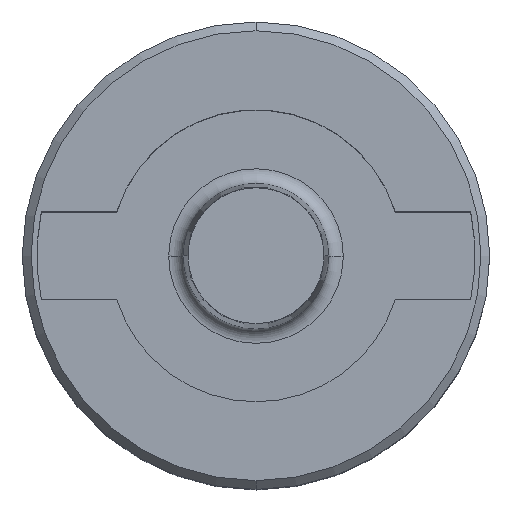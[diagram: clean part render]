
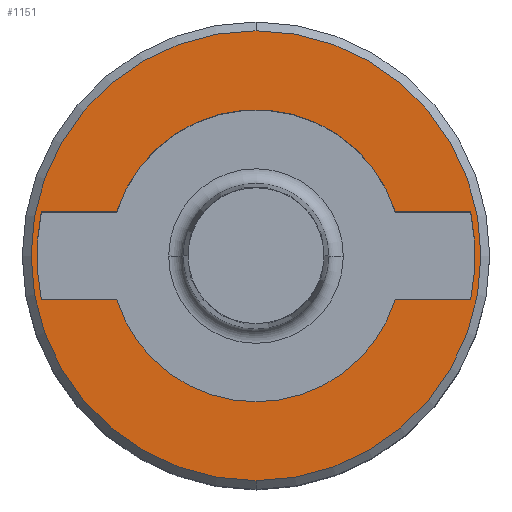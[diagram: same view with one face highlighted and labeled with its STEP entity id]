
A CAD part, top view. The second image highlights one B-rep face of the part: STEP entity #1151.
In plain terms, the highlighted planar face has unit normal (0, 0, 1) as drawn and (0, -1, 0) by its records, which use the part's own axes.
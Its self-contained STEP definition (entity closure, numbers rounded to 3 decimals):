
#2 = DIRECTION ( 'NONE',  ( 0., 1., 0. ) ) ;
#3 = ORIENTED_EDGE ( 'NONE', *, *, #878, .F. ) ;
#7 = DIRECTION ( 'NONE',  ( 0., 0., 1. ) ) ;
#30 = DIRECTION ( 'NONE',  ( 0., 0., -1. ) ) ;
#40 = EDGE_CURVE ( 'NONE', #260, #270, #499, .T. ) ;
#49 = ORIENTED_EDGE ( 'NONE', *, *, #906, .F. ) ;
#54 = CARTESIAN_POINT ( 'NONE',  ( 0., 0., 1.5 ) ) ;
#57 = DIRECTION ( 'NONE',  ( 1., 0., 0. ) ) ;
#95 = VECTOR ( 'NONE', #1004, 1000. ) ;
#108 = CARTESIAN_POINT ( 'NONE',  ( 0., 0., 0. ) ) ;
#109 = EDGE_LOOP ( 'NONE', ( #1321, #662, #573, #49, #682, #3, #475, #1499, #440 ) ) ;
#128 = FACE_BOUND ( 'NONE', #109, .T. ) ;
#132 = CARTESIAN_POINT ( 'NONE',  ( -4.77, 0., -1.5 ) ) ;
#134 = CARTESIAN_POINT ( 'NONE',  ( 4.77, 0., -1.5 ) ) ;
#142 = CIRCLE ( 'NONE', #960, 7.7 ) ;
#145 = CIRCLE ( 'NONE', #531, 5. ) ;
#147 = CARTESIAN_POINT ( 'NONE',  ( -4.77, 0., 1.5 ) ) ;
#149 = AXIS2_PLACEMENT_3D ( 'NONE', #398, #860, #632 ) ;
#153 = CARTESIAN_POINT ( 'NONE',  ( 0., 0., 0. ) ) ;
#174 = VERTEX_POINT ( 'NONE', #222 ) ;
#222 = CARTESIAN_POINT ( 'NONE',  ( 4.77, 0., 1.5 ) ) ;
#233 = PLANE ( 'NONE',  #791 ) ;
#260 = VERTEX_POINT ( 'NONE', #514 ) ;
#270 = VERTEX_POINT ( 'NONE', #628 ) ;
#281 = CARTESIAN_POINT ( 'NONE',  ( 7.348, 0., -1.5 ) ) ;
#288 = VERTEX_POINT ( 'NONE', #585 ) ;
#302 = EDGE_CURVE ( 'NONE', #174, #742, #145, .T. ) ;
#306 = CIRCLE ( 'NONE', #401, 5. ) ;
#311 = EDGE_CURVE ( 'NONE', #1270, #450, #1136, .T. ) ;
#326 = DIRECTION ( 'NONE',  ( 0., -1., 0. ) ) ;
#365 = AXIS2_PLACEMENT_3D ( 'NONE', #153, #1262, #1055 ) ;
#370 = CARTESIAN_POINT ( 'NONE',  ( -7.348, 0., 1.5 ) ) ;
#398 = CARTESIAN_POINT ( 'NONE',  ( 0., 0., 0. ) ) ;
#401 = AXIS2_PLACEMENT_3D ( 'NONE', #1080, #326, #30 ) ;
#410 = DIRECTION ( 'NONE',  ( 0., 1., 0. ) ) ;
#437 = DIRECTION ( 'NONE',  ( 1., 0., 0. ) ) ;
#440 = ORIENTED_EDGE ( 'NONE', *, *, #1295, .F. ) ;
#447 = ORIENTED_EDGE ( 'NONE', *, *, #40, .F. ) ;
#450 = VERTEX_POINT ( 'NONE', #1208 ) ;
#467 = EDGE_CURVE ( 'NONE', #1417, #288, #1396, .T. ) ;
#475 = ORIENTED_EDGE ( 'NONE', *, *, #467, .F. ) ;
#478 = AXIS2_PLACEMENT_3D ( 'NONE', #795, #809, #820 ) ;
#494 = CARTESIAN_POINT ( 'NONE',  ( 0., 0., 1.5 ) ) ;
#499 = CIRCLE ( 'NONE', #756, 7.7 ) ;
#514 = CARTESIAN_POINT ( 'NONE',  ( 0., 0., -7.7 ) ) ;
#531 = AXIS2_PLACEMENT_3D ( 'NONE', #744, #749, #1046 ) ;
#573 = ORIENTED_EDGE ( 'NONE', *, *, #626, .F. ) ;
#574 = VERTEX_POINT ( 'NONE', #370 ) ;
#585 = CARTESIAN_POINT ( 'NONE',  ( 7.348, 0., 1.5 ) ) ;
#597 = CARTESIAN_POINT ( 'NONE',  ( -7.348, 0., -1.5 ) ) ;
#602 = DIRECTION ( 'NONE',  ( 0., 0., 1. ) ) ;
#626 = EDGE_CURVE ( 'NONE', #574, #1233, #806, .T. ) ;
#628 = CARTESIAN_POINT ( 'NONE',  ( 0., 0., 7.7 ) ) ;
#632 = DIRECTION ( 'NONE',  ( 0., 0., -1. ) ) ;
#662 = ORIENTED_EDGE ( 'NONE', *, *, #1119, .F. ) ;
#682 = ORIENTED_EDGE ( 'NONE', *, *, #302, .F. ) ;
#742 = VERTEX_POINT ( 'NONE', #147 ) ;
#744 = CARTESIAN_POINT ( 'NONE',  ( 0., 0., 0. ) ) ;
#746 = FACE_OUTER_BOUND ( 'NONE', #1261, .T. ) ;
#749 = DIRECTION ( 'NONE',  ( 0., -1., 0. ) ) ;
#756 = AXIS2_PLACEMENT_3D ( 'NONE', #1232, #410, #1111 ) ;
#791 = AXIS2_PLACEMENT_3D ( 'NONE', #834, #964, #602 ) ;
#795 = CARTESIAN_POINT ( 'NONE',  ( 0., 0., 0. ) ) ;
#806 = CIRCLE ( 'NONE', #149, 7.5 ) ;
#809 = DIRECTION ( 'NONE',  ( 0., -1., 0. ) ) ;
#820 = DIRECTION ( 'NONE',  ( 0., 0., -1. ) ) ;
#834 = CARTESIAN_POINT ( 'NONE',  ( 0., 0., 0. ) ) ;
#842 = LINE ( 'NONE', #494, #1359 ) ;
#860 = DIRECTION ( 'NONE',  ( 0., -1., 0. ) ) ;
#878 = EDGE_CURVE ( 'NONE', #288, #174, #937, .T. ) ;
#905 = DIRECTION ( 'NONE',  ( -1., 0., 0. ) ) ;
#906 = EDGE_CURVE ( 'NONE', #742, #574, #842, .T. ) ;
#937 = LINE ( 'NONE', #54, #95 ) ;
#960 = AXIS2_PLACEMENT_3D ( 'NONE', #108, #2, #7 ) ;
#964 = DIRECTION ( 'NONE',  ( 0., 1., 0. ) ) ;
#996 = LINE ( 'NONE', #1402, #1152 ) ;
#1004 = DIRECTION ( 'NONE',  ( -1., 0., 0. ) ) ;
#1030 = VECTOR ( 'NONE', #437, 1000. ) ;
#1046 = DIRECTION ( 'NONE',  ( 0., 0., -1. ) ) ;
#1050 = EDGE_CURVE ( 'NONE', #270, #260, #142, .T. ) ;
#1055 = DIRECTION ( 'NONE',  ( 0., 0., -1. ) ) ;
#1080 = CARTESIAN_POINT ( 'NONE',  ( 0., 0., 0. ) ) ;
#1111 = DIRECTION ( 'NONE',  ( 0., 0., 1. ) ) ;
#1119 = EDGE_CURVE ( 'NONE', #1233, #1270, #1476, .T. ) ;
#1136 = CIRCLE ( 'NONE', #478, 5. ) ;
#1151 = ADVANCED_FACE ( 'NONE', ( #746, #128 ), #233, .F. ) ;
#1152 = VECTOR ( 'NONE', #57, 1000. ) ;
#1163 = ORIENTED_EDGE ( 'NONE', *, *, #1050, .F. ) ;
#1208 = CARTESIAN_POINT ( 'NONE',  ( 0., 0., -5. ) ) ;
#1230 = VERTEX_POINT ( 'NONE', #134 ) ;
#1232 = CARTESIAN_POINT ( 'NONE',  ( 0., 0., 0. ) ) ;
#1233 = VERTEX_POINT ( 'NONE', #597 ) ;
#1238 = EDGE_CURVE ( 'NONE', #1230, #1417, #996, .T. ) ;
#1261 = EDGE_LOOP ( 'NONE', ( #1163, #447 ) ) ;
#1262 = DIRECTION ( 'NONE',  ( 0., -1., 0. ) ) ;
#1270 = VERTEX_POINT ( 'NONE', #132 ) ;
#1295 = EDGE_CURVE ( 'NONE', #450, #1230, #306, .T. ) ;
#1321 = ORIENTED_EDGE ( 'NONE', *, *, #311, .F. ) ;
#1359 = VECTOR ( 'NONE', #905, 1000. ) ;
#1396 = CIRCLE ( 'NONE', #365, 7.5 ) ;
#1402 = CARTESIAN_POINT ( 'NONE',  ( 0., 0., -1.5 ) ) ;
#1417 = VERTEX_POINT ( 'NONE', #281 ) ;
#1476 = LINE ( 'NONE', #1501, #1030 ) ;
#1499 = ORIENTED_EDGE ( 'NONE', *, *, #1238, .F. ) ;
#1501 = CARTESIAN_POINT ( 'NONE',  ( 0., 0., -1.5 ) ) ;
